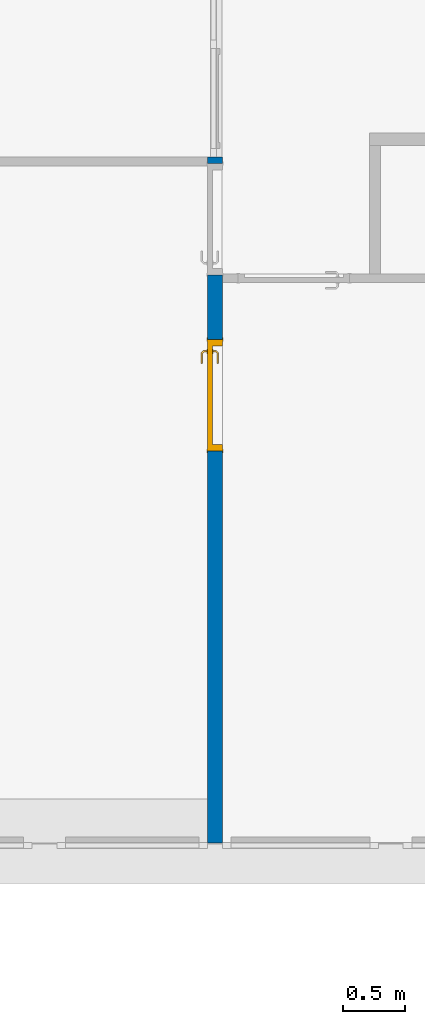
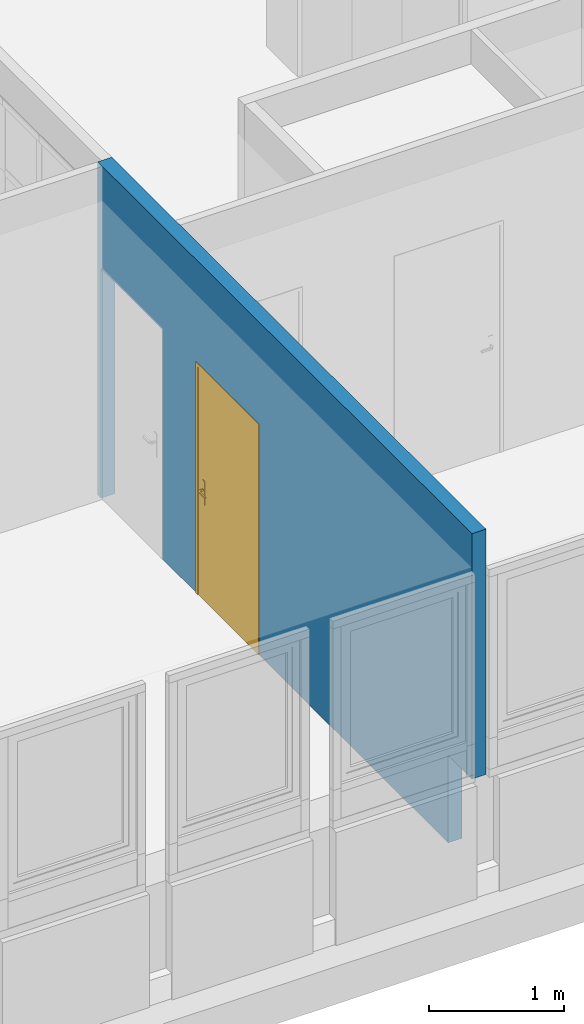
# One storey, part 54 of 97: 1 door, 1 wall, 2 openings.
"""IFC4 building model written with IfcOpenShell, lengths in metres."""

import ifcopenshell
import ifcopenshell.guid

model = None  # the IFC model being written
_history = None  # IfcOwnerHistory: only IFC2X3 demands one
_inside = {}  # id of a spatial element -> (the spatial element, [elements in it])
_under = {}  # id of a project, library or spatial element -> (it, [spatial elements below it])
_declared = {}  # id of a project -> (the project, [libraries it declares])
_typed = {}  # id of a type object -> (the type object, [elements of that type])
_made_of = {}  # id of a material, layer set ... -> (it, [elements and type objects made of it])


def new_model(schema):
    """Start an empty IFC model of exactly this schema.

    Asked for "IFC4X3", IfcOpenShell would pick the latest addendum, in which some entities
    have other attributes; the version numbers below select the first issue.
    IFC2X3 requires an IfcOwnerHistory on every rooted entity: one is made here for all.
    """
    global model, _history
    if schema == "IFC4X3":
        model = ifcopenshell.file(schema_version=(4, 3, 0, 0))
    else:
        model = ifcopenshell.file(schema=schema)
    _inside.clear()
    _under.clear()
    _declared.clear()
    _typed.clear()
    _made_of.clear()
    _history = None
    if model.schema == "IFC2X3":
        org = make("IfcOrganization", Name="unknown")
        user = make(
            "IfcPersonAndOrganization",
            ThePerson=make("IfcPerson", FamilyName="unknown"),
            TheOrganization=org,
        )
        app = make(
            "IfcApplication",
            ApplicationDeveloper=org,
            Version="unknown",
            ApplicationFullName="unknown",
            ApplicationIdentifier="unknown",
        )
        _history = make(
            "IfcOwnerHistory",
            OwningUser=user,
            OwningApplication=app,
            ChangeAction="ADDED",
            CreationDate=0,
        )
    return model


def make(cls, **values):
    """One entity of the class cls with the attributes given. An attribute that is None is left unset."""
    return model.create_entity(
        cls, **{name: value for name, value in values.items() if value is not None}
    )


def entity(cls, *values):
    """Any entity or typed value of the class cls, its attributes in the order of the schema. None: left unset."""
    e = model.create_entity(cls)
    for i, value in enumerate(values):
        if value is not None:
            e[i] = value
    return e


def rooted(cls, **values):
    """An entity with a GlobalId (a new one), such as an element, a storey or a relation."""
    return make(cls, GlobalId=ifcopenshell.guid.new(), OwnerHistory=_history, **values)


def si_unit(unit_type, name, prefix=None):
    """IfcSIUnit, for example si_unit("LENGTHUNIT", "METRE", prefix="MILLI")."""
    return make("IfcSIUnit", UnitType=unit_type, Prefix=prefix, Name=name)


def converted_unit(unit_type, name, factor, base, dimensions=None, offset=None):
    """IfcConversionBasedUnit, such as the inch: factor (a typed value) times the base unit."""
    return make(
        "IfcConversionBasedUnit"
        if offset is None
        else "IfcConversionBasedUnitWithOffset",
        ConversionOffset=offset,
        Dimensions=None
        if dimensions is None
        else entity("IfcDimensionalExponents", *dimensions),
        UnitType=unit_type,
        Name=name,
        ConversionFactor=make(
            "IfcMeasureWithUnit", ValueComponent=factor, UnitComponent=base
        ),
    )


def derived_unit(unit_type, elements):
    """IfcDerivedUnit: a product of units, each with its exponent."""
    return make(
        "IfcDerivedUnit",
        Elements=[
            make("IfcDerivedUnitElement", Unit=unit, Exponent=power)
            for unit, power in elements
        ],
        UnitType=unit_type,
    )


def assignment(units):
    """IfcUnitAssignment: the units of a project."""
    return None if units is None else make("IfcUnitAssignment", Units=units)


def point(xyz):
    """IfcCartesianPoint."""
    return None if xyz is None else make("IfcCartesianPoint", Coordinates=xyz)


def direction(xyz):
    """IfcDirection."""
    return None if xyz is None else make("IfcDirection", DirectionRatios=xyz)


def frame(location, z_axis=None, x_axis=None):
    """IfcAxis2Placement3D, a coordinate frame: its origin and axes. An axis left out is left unset."""
    return make(
        "IfcAxis2Placement3D",
        Location=point(location),
        Axis=direction(z_axis),
        RefDirection=direction(x_axis),
    )


def origin():
    """The frame at (0, 0, 0) with its axes left unset."""
    return frame((0.0, 0.0, 0.0))


def place(relative_to, where):
    """IfcLocalPlacement: puts the frame where relative to a parent placement (None: the world)."""
    return make(
        "IfcLocalPlacement", PlacementRelTo=relative_to, RelativePlacement=where
    )


def context(
    kind, dimensions, precision=None, world=None, true_north=None, identifier=None
):
    """IfcGeometricRepresentationContext, for example the 3D "Model" context."""
    return make(
        "IfcGeometricRepresentationContext",
        ContextIdentifier=identifier,
        ContextType=kind,
        CoordinateSpaceDimension=dimensions,
        Precision=precision,
        WorldCoordinateSystem=world,
        TrueNorth=true_north,
    )


def subcontext(parent, identifier, kind, view, scale=None):
    """IfcGeometricRepresentationSubContext, for example "Body" below "Model"."""
    return make(
        "IfcGeometricRepresentationSubContext",
        ContextIdentifier=identifier,
        ContextType=kind,
        ParentContext=parent,
        TargetScale=scale,
        TargetView=view,
    )


def project(units=None, contexts=None):
    """IfcProject with its units and contexts."""
    return rooted(
        "IfcProject",
        Name="project",
        RepresentationContexts=contexts,
        UnitsInContext=assignment(units),
    )


def spatial(cls, under=None, at=None, **own):
    """A site, building, storey or space (cls), placed at a placement, below another one or the project."""
    s = rooted(cls, ObjectPlacement=at, **own)
    if under is not None:
        _under.setdefault(under.id(), (under, []))[1].append(s)
    return s


def point_list(points):
    """IfcCartesianPointList2D or 3D."""
    cls = (
        "IfcCartesianPointList2D" if len(points[0]) == 2 else "IfcCartesianPointList3D"
    )
    return make(cls, CoordList=points)


def indexed_curve(points, segments=None, self_intersect=None):
    """IfcIndexedPolyCurve: lines and arcs through numbered points (the first is 1)."""
    return make(
        "IfcIndexedPolyCurve",
        Points=point_list(points),
        Segments=segments,
        SelfIntersect=self_intersect,
    )


def outline(outer, holes=None, kind="AREA"):
    """IfcArbitraryClosedProfileDef: a profile drawn as a closed curve; with holes, ...WithVoids."""
    if holes is None:
        return make("IfcArbitraryClosedProfileDef", ProfileType=kind, OuterCurve=outer)
    return make(
        "IfcArbitraryProfileDefWithVoids",
        ProfileType=kind,
        OuterCurve=outer,
        InnerCurves=holes,
    )


def extrude(swept, where, along, depth):
    """IfcExtrudedAreaSolid: the profile swept, set in the frame where, extruded along a direction by depth."""
    return make(
        "IfcExtrudedAreaSolid",
        SweptArea=swept,
        Position=where,
        ExtrudedDirection=direction(along),
        Depth=depth,
    )


def polygons(points, faces, closed=None, point_numbers=None):
    """IfcPolygonalFaceSet: a face is its outer loop, then its inner loops; points numbered from 1."""
    made = []
    for loops in faces:
        if len(loops) == 1:
            made.append(make("IfcIndexedPolygonalFace", CoordIndex=loops[0]))
        else:
            made.append(
                make(
                    "IfcIndexedPolygonalFaceWithVoids",
                    CoordIndex=loops[0],
                    InnerCoordIndices=loops[1:],
                )
            )
    return make(
        "IfcPolygonalFaceSet",
        Coordinates=point_list(points),
        Closed=closed,
        Faces=made,
        PnIndex=point_numbers,
    )


def shape(context_of_items, identifier, shape_type, items):
    """IfcShapeRepresentation: the items that make up one representation, for example the "Body"."""
    return make(
        "IfcShapeRepresentation",
        ContextOfItems=context_of_items,
        RepresentationIdentifier=identifier,
        RepresentationType=shape_type,
        Items=items,
    )


def source(mapping_origin, context_of_items, identifier, shape_type, items):
    """IfcRepresentationMap: a shape defined once, which mapped items show again and again."""
    return make(
        "IfcRepresentationMap",
        MappingOrigin=mapping_origin,
        MappedRepresentation=shape(context_of_items, identifier, shape_type, items),
    )


def transform(
    local_origin,
    x_axis=None,
    y_axis=None,
    z_axis=None,
    scale=None,
    scale2=None,
    scale3=None,
    uniform=True,
):
    """IfcCartesianTransformationOperator3D, or its non-uniform kind. x_axis, y_axis, z_axis: its Axis1, 2, 3."""
    if uniform:
        return make(
            "IfcCartesianTransformationOperator3D",
            Axis1=direction(x_axis),
            Axis2=direction(y_axis),
            LocalOrigin=point(local_origin),
            Scale=scale,
            Axis3=direction(z_axis),
        )
    return make(
        "IfcCartesianTransformationOperator3DnonUniform",
        Axis1=direction(x_axis),
        Axis2=direction(y_axis),
        LocalOrigin=point(local_origin),
        Scale=scale,
        Axis3=direction(z_axis),
        Scale2=scale2,
        Scale3=scale3,
    )


def mapped(mapping_source, mapping_target):
    """IfcMappedItem: shows the shape of a source again, moved by a transform."""
    return make(
        "IfcMappedItem", MappingSource=mapping_source, MappingTarget=mapping_target
    )


def material(Name=None, Category=None):
    """IfcMaterial."""
    return make("IfcMaterial", Name=Name, Category=Category)


def material_list(materials):
    """IfcMaterialList."""
    return make("IfcMaterialList", Materials=materials)


def layer(
    of_material, thickness, ventilated=None, Name=None, Category=None, Priority=None
):
    """IfcMaterialLayer: one layer of a wall or slab, of a material (None: an air gap)."""
    return make(
        "IfcMaterialLayer",
        Material=of_material,
        LayerThickness=thickness,
        IsVentilated=ventilated,
        Name=Name,
        Category=Category,
        Priority=Priority,
    )


def layer_set(layers, Name=None):
    """IfcMaterialLayerSet."""
    return make("IfcMaterialLayerSet", MaterialLayers=layers, LayerSetName=Name)


def constituent(of_material, Name=None, Category=None, fraction=None):
    """IfcMaterialConstituent: one of the materials an element consists of."""
    return make(
        "IfcMaterialConstituent",
        Name=Name,
        Material=of_material,
        Fraction=fraction,
        Category=Category,
    )


def constituent_set(constituents=None, Name=None):
    """IfcMaterialConstituentSet."""
    return make(
        "IfcMaterialConstituentSet", Name=Name, MaterialConstituents=constituents
    )


def made_of(thing, what):
    """Note that an element or type object is made of a material, layer set ...; save() writes the relation."""
    if what is not None:
        _made_of.setdefault(what.id(), (what, []))[1].append(thing)
    return thing


def type_object(cls, material=None, **own):
    """A type object (cls), such as IfcWallType, which elements share."""
    return made_of(rooted(cls, **own), material)


def type_shapes(of_type, sources):
    """Give a type object the sources (RepresentationMaps) that its elements show as mapped items."""
    of_type.RepresentationMaps = sources


def element(
    cls,
    number,
    at=None,
    inside=None,
    cuts=None,
    type_object=None,
    material=None,
    context=None,
    identifier="Body",
    shape_type=None,
    held_by="IfcProductDefinitionShape",
    body=None,
    shapes=None,
    **own,
):
    """One element of the class cls, such as IfcWall. Its Tag is "e" and its number.

    at: its placement. inside: the storey or other place that contains it. cuts: it is an
    opening in that element (IfcRelVoidsElement). A single representation is given by context,
    identifier, shape_type and body (its items); several are given by shapes. held_by: the class
    of the entity that holds the representations. save() writes the other relations.
    """
    e = rooted(cls, Tag="e%d" % number, ObjectPlacement=at, **own)
    if body is not None:
        shapes = [shape(context, identifier, shape_type, body)]
    if shapes is not None:
        e.Representation = make(held_by, Representations=shapes)
    if inside is not None:
        _inside.setdefault(inside.id(), (inside, []))[1].append(e)
    if cuts is not None:
        rooted(
            "IfcRelVoidsElement", RelatingBuildingElement=cuts, RelatedOpeningElement=e
        )
    if type_object is not None:
        _typed.setdefault(type_object.id(), (type_object, []))[1].append(e)
    return made_of(e, material)


def fill(opening, filler):
    """IfcRelFillsElement: the door or window that sits in an opening."""
    return rooted(
        "IfcRelFillsElement",
        RelatingOpeningElement=opening,
        RelatedBuildingElement=filler,
    )


def aggregate(whole, parts):
    """IfcRelAggregates: a whole, such as a stair, and the parts it consists of."""
    return rooted("IfcRelAggregates", RelatingObject=whole, RelatedObjects=parts)


def save(model, path):
    """Write the relations noted so far, then the file.

    IfcRelAggregates (storeys below a building ...), IfcRelContainedInSpatialStructure (elements
    in a storey), IfcRelDefinesByType, IfcRelAssociatesMaterial and IfcRelDeclares: one each for
    every whole, place, type object, material and project.
    """
    for whole, parts in _under.values():
        aggregate(whole, parts)
    for where, things in _inside.values():
        rooted(
            "IfcRelContainedInSpatialStructure",
            RelatedElements=things,
            RelatingStructure=where,
        )
    for kind, things in _typed.values():
        rooted("IfcRelDefinesByType", RelatedObjects=things, RelatingType=kind)
    for what, things in _made_of.values():
        rooted("IfcRelAssociatesMaterial", RelatedObjects=things, RelatingMaterial=what)
    for by, libraries in _declared.values():
        rooted("IfcRelDeclares", RelatingContext=by, RelatedDefinitions=libraries)
    model.write(path)


model = new_model("IFC4")

# Units and contexts
model_context = context("Model", 3, precision=1e-05, world=origin(), true_north=direction((6.12303176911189e-17, 1.0)))
body_context = subcontext(model_context, "Body", "Model", "MODEL_VIEW")
ifc_project = project(units=[si_unit("LENGTHUNIT", "METRE"), si_unit("AREAUNIT", "SQUARE_METRE"), si_unit("VOLUMEUNIT", "CUBIC_METRE"), converted_unit("PLANEANGLEUNIT", "DEGREE", entity("IfcRatioMeasure", 0.0174532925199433), si_unit("PLANEANGLEUNIT", "RADIAN"), dimensions=[0, 0, 0, 0, 0, 0, 0]), si_unit("MASSUNIT", "GRAM", prefix="KILO"), derived_unit("MASSDENSITYUNIT", [(si_unit("MASSUNIT", "GRAM", prefix="KILO"), 1), (si_unit("LENGTHUNIT", "METRE"), -3)]), derived_unit("MOMENTOFINERTIAUNIT", [(si_unit("LENGTHUNIT", "METRE"), 4)]), si_unit("TIMEUNIT", "SECOND"), si_unit("FREQUENCYUNIT", "HERTZ"), si_unit("THERMODYNAMICTEMPERATUREUNIT", "DEGREE_CELSIUS"), derived_unit("THERMALTRANSMITTANCEUNIT", [(si_unit("MASSUNIT", "GRAM", prefix="KILO"), 1), (si_unit("THERMODYNAMICTEMPERATUREUNIT", "KELVIN"), -1), (si_unit("TIMEUNIT", "SECOND"), -3)]), derived_unit("VOLUMETRICFLOWRATEUNIT", [(si_unit("LENGTHUNIT", "METRE"), 3), (si_unit("TIMEUNIT", "SECOND"), -1)]), si_unit("ELECTRICCURRENTUNIT", "AMPERE"), si_unit("ELECTRICVOLTAGEUNIT", "VOLT"), si_unit("POWERUNIT", "WATT"), si_unit("FORCEUNIT", "NEWTON", prefix="KILO"), si_unit("ILLUMINANCEUNIT", "LUX"), si_unit("LUMINOUSFLUXUNIT", "LUMEN"), si_unit("LUMINOUSINTENSITYUNIT", "CANDELA"), derived_unit("USERDEFINED", [(si_unit("MASSUNIT", "GRAM", prefix="KILO"), -1), (si_unit("LENGTHUNIT", "METRE"), -2), (si_unit("TIMEUNIT", "SECOND"), 3), (si_unit("LUMINOUSFLUXUNIT", "LUMEN"), 1)]), derived_unit("LINEARVELOCITYUNIT", [(si_unit("LENGTHUNIT", "METRE"), 1), (si_unit("TIMEUNIT", "SECOND"), -1)]), si_unit("PRESSUREUNIT", "PASCAL"), derived_unit("USERDEFINED", [(si_unit("LENGTHUNIT", "METRE"), -2), (si_unit("MASSUNIT", "GRAM", prefix="KILO"), 1), (si_unit("TIMEUNIT", "SECOND"), -2)]), derived_unit("LINEARFORCEUNIT", [(si_unit("MASSUNIT", "GRAM", prefix="KILO"), 1), (si_unit("LENGTHUNIT", "METRE"), 1), (si_unit("TIMEUNIT", "SECOND"), -2), (si_unit("LENGTHUNIT", "METRE"), -1)]), derived_unit("PLANARFORCEUNIT", [(si_unit("MASSUNIT", "GRAM", prefix="KILO"), 1), (si_unit("LENGTHUNIT", "METRE"), 1), (si_unit("TIMEUNIT", "SECOND"), -2), (si_unit("LENGTHUNIT", "METRE"), -2)])], contexts=[model_context])

# Site, building, storey
site_placement = place(None, origin())
site = spatial("IfcSite", under=ifc_project, at=site_placement, Name="Default", CompositionType="ELEMENT")
building_placement = place(site_placement, origin())
building = spatial("IfcBuilding", under=site, at=building_placement, Name="HOTEL CONSULAIRE BOULOGNE SUR MER", CompositionType="ELEMENT")
storey_placement = place(building_placement, frame((0.0, 0.0, 3.62152697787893)))
storey = spatial("IfcBuildingStorey", under=building, at=storey_placement, Name="Niveau 1", CompositionType="ELEMENT", Elevation=3.62152697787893)

# Wall, openings, door
ifc_material_1 = material(Name="Mur par défaut", Category="Divers")
ifc_layer = layer(ifc_material_1, 0.12, Name="Mur par défaut", Category="Divers")
ifc_layer_set = layer_set([ifc_layer], Name="Mur de base:Générique - Int.120")
wall_type = type_object("IfcWallType", Name="Mur de base:Générique - Int.120", PredefinedType="NOTDEFINED", material=ifc_layer_set)
wall_placement = place(storey_placement, frame((-9.66440198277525, -29.5540671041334, 0.0), z_axis=(0.0, 0.0, 1.0), x_axis=(0.0, 1.0, 0.0)))
wall = element("IfcWall", 1, at=wall_placement, inside=storey, type_object=wall_type, material=ifc_layer_set, Name="Mur de base:Générique - Int.120", ObjectType="Mur de base:Générique - Int.120", PredefinedType="NOTDEFINED", context=body_context, shape_type="Tessellation", body=[
    polygons([(5.54480749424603, -0.0599999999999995, 5.41433564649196e-16), (5.49280749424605, -0.0599999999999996, 5.41433564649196e-16), (5.49280749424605, 0.0599999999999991, 5.41433564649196e-16), (5.54480749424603, 0.0599999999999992, 5.41433564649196e-16), (4.59280749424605, -0.0599999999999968, 5.41433564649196e-16), (4.53041964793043, -0.0599999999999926, 5.41433564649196e-16), (4.06941964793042, -0.0599999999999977, 5.41433564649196e-16), (4.06941964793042, 0.060000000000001, 5.41433564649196e-16), (4.59280749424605, 0.0600000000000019, 5.41433564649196e-16), (5.54480749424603, -0.0599999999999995, 3.0102145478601), (4.60041964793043, -0.06, 3.0102145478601), (4.53041964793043, -0.0599999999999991, 3.0102145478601), (0.0, -0.0599999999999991, 3.0102145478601), (0.0, -0.0599999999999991, 0.791612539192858), (0.35396238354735, -0.0599999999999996, 0.791612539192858), (0.35396238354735, -0.0599999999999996, 5.41433564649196e-16), (3.16941964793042, -0.0599999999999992, 5.41433564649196e-16), (3.16941964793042, -0.0599999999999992, 2.075), (4.06941964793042, -0.0599999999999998, 2.075), (4.59280749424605, -0.06, 2.075), (5.49280749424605, -0.0599999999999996, 2.075), (0.0, 0.0600000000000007, 3.0102145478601), (5.47480749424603, 0.0600000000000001, 3.0102145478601), (5.54480749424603, 0.0600000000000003, 3.0102145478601), (5.49280749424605, 0.0600000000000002, 2.075), (4.59280749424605, 0.0599999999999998, 2.075), (4.06941964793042, 0.06, 2.075), (3.16941964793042, 0.0600000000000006, 2.075), (3.16941964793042, 0.0600000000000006, 5.41433564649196e-16), (0.35396238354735, 0.0600000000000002, 5.41433564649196e-16), (0.35396238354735, 0.0600000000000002, 0.791612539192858), (0.0, 0.0600000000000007, 0.791612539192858), (5.54480749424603, 0.0302226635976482, 3.0102145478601), (5.54480749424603, -0.0597773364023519, 3.0102145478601)], [[[1, 2, 3, 4]], [[6, 7, 8, 9, 5]], [[19, 18, 28, 27]], [[26, 25, 21, 20]], [[15, 14, 32, 31]], [[29, 17, 16, 30]], [[5, 20, 21, 2, 1, 10, 11, 12, 13, 14, 15, 16, 17, 18, 19, 7, 6]], [[24, 4, 3, 25, 26, 9, 8, 27, 28, 29, 30, 31, 32, 22, 23]], [[18, 17, 29, 28]], [[9, 26, 20, 5]], [[10, 1, 4, 24, 33, 34]], [[7, 19, 27, 8]], [[25, 3, 2, 21]], [[14, 13, 22, 32]], [[16, 15, 31, 30]], [[12, 11, 10, 34, 33, 24, 23, 22, 13]]], closed=True),
])
opening_1_placement = place(wall_placement, frame((3.16941964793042, -0.0599999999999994, 0.0)))
opening_1 = element("IfcOpeningElement", 2, at=opening_1_placement, cuts=wall, Name="Int. Simple:PP (0.83m x 2.04m):1", ObjectType="Opening", PredefinedType="OPENING", context=body_context, shape_type="SweptSolid", body=[
    extrude(outline(indexed_curve([(0.0, 1.08286712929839e-15), (2.075, 1.08286712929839e-15), (2.075, 0.9), (0.0, 0.9), (0.0, 1.08286712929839e-15)], self_intersect=False)), frame((0.0, 0.0, 0.0), z_axis=(0.0, 1.0, 0.0), x_axis=(0.0, 0.0, 1.0)), (0.0, 0.0, 1.0), 0.12),
])
opening_2_placement = place(wall_placement, frame((4.59280749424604, -0.0599999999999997, 0.0)))
element("IfcOpeningElement", 3, at=opening_2_placement, cuts=wall, Name="Int. Simple:PP (0.83m x 2.04m):1", ObjectType="Opening", PredefinedType="OPENING", context=body_context, shape_type="SweptSolid", body=[
    extrude(outline(indexed_curve([(0.0, 0.9), (0.0, -1.10599456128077e-30), (2.075, -1.10599456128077e-30), (2.075, 0.9), (0.0, 0.9)], self_intersect=False)), frame((0.0, 0.0, 0.0), z_axis=(0.0, 1.0, 0.0), x_axis=(0.0, 0.0, 1.0)), (0.0, 0.0, 1.0), 0.12),
])
ifc_material_2 = material(Name="Finition Peinture - Blanc satiné", Category="Peinture")
ifc_constituent_1 = constituent(ifc_material_2, Name="Finition Peinture - Blanc satiné", Category="Matériaux")
ifc_material_3 = material(Name="Bois - Panneau de porte", Category="Bois")
ifc_constituent_2 = constituent(ifc_material_3, Name="Bois - Panneau de porte", Category="Matériaux")
ifc_material_4 = material(Name="Bois - Cadre de porte", Category="Bois")
ifc_constituent_3 = constituent(ifc_material_4, Name="Bois - Cadre de porte", Category="Matériaux")
ifc_constituent_set = constituent_set(constituents=[ifc_constituent_1, ifc_constituent_2, ifc_constituent_3], Name="MaterialConstituentSet")
ifc_material_list = material_list([ifc_material_4, ifc_material_4, ifc_material_3, ifc_material_2])
door_type = type_object("IfcDoorType", Name="Int. Simple:PP (0.83m x 2.04m)", OperationType="NOTDEFINED", PredefinedType="DOOR", material=ifc_material_list)
shared_shape = source(origin(), body_context, "Body", "Tessellation", [
    polygons([(0.0750000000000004, -0.00500000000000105, 0.870000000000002), (0.0846472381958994, -0.00500000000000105, 0.866003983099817), (0.0950000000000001, -0.00500000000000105, 0.86464101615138), (0.105352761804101, -0.00500000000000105, 0.866003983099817), (0.115, -0.00500000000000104, 0.870000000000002), (0.114999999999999, -0.00500000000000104, 1.08), (0.1053527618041, -0.00500000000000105, 1.08399601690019), (0.094999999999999, -0.00500000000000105, 1.08535898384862), (0.0846472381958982, -0.00500000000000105, 1.08399601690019), (0.0749999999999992, -0.00500000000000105, 1.08), (0.0749999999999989, -1.05748743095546e-15, 0.870000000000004), (0.0749999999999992, -1.05748743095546e-15, 1.08), (0.0846472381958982, -1.05748743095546e-15, 1.08399601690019), (0.094999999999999, -1.04902753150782e-15, 1.08535898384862), (0.1053527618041, -1.04902753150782e-15, 1.08399601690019), (0.114999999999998, -1.04056763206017e-15, 1.08), (0.115, -1.04056763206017e-15, 0.870000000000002), (0.105352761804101, -1.04902753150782e-15, 0.866003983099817), (0.0950000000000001, -1.04902753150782e-15, 0.86464101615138), (0.0846472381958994, -1.05748743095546e-15, 0.866003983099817)], [[[4, 5, 6, 7, 8, 9, 10, 1, 2, 3]], [[15, 16, 17, 18, 19, 20, 11, 12, 13, 14]], [[11, 20, 2, 1]], [[2, 20, 19, 3]], [[19, 18, 4, 3]], [[18, 17, 5, 4]], [[6, 5, 17, 16]], [[16, 15, 7, 6]], [[7, 15, 14, 8]], [[14, 13, 9, 8]], [[13, 12, 10, 9]], [[1, 10, 12, 11]]], closed=True),
    polygons([(0.114999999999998, 0.0399999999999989, 1.08), (0.105352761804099, 0.0399999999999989, 1.08399601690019), (0.0949999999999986, 0.0399999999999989, 1.08535898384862), (0.084647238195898, 0.0399999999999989, 1.08399601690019), (0.0749999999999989, 0.0399999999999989, 1.08), (0.0750000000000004, 0.0399999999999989, 0.870000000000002), (0.0846472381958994, 0.0399999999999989, 0.866003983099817), (0.0950000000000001, 0.0399999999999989, 0.86464101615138), (0.105352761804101, 0.0399999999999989, 0.866003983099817), (0.115, 0.0399999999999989, 0.870000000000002), (0.114999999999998, 0.0449999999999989, 1.08), (0.115, 0.0449999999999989, 0.870000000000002), (0.105352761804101, 0.0449999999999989, 0.866003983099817), (0.0950000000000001, 0.0449999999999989, 0.86464101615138), (0.0846472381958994, 0.0449999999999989, 0.866003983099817), (0.0749999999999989, 0.0449999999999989, 0.870000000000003), (0.0749999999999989, 0.0449999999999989, 1.08), (0.084647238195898, 0.0449999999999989, 1.08399601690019), (0.0949999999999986, 0.0449999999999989, 1.08535898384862), (0.105352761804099, 0.0449999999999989, 1.08399601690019)], [[[9, 10, 1, 2, 3, 4, 5, 6, 7, 8]], [[20, 11, 12, 13, 14, 15, 16, 17, 18, 19]], [[11, 20, 2, 1]], [[2, 20, 19, 3]], [[19, 18, 4, 3]], [[18, 17, 5, 4]], [[6, 5, 17, 16]], [[16, 15, 7, 6]], [[7, 15, 14, 8]], [[14, 13, 9, 8]], [[13, 12, 10, 9]], [[1, 10, 12, 11]]], closed=True),
    polygons([(0.0889999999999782, -0.00500000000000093, 1.007), (0.0929747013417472, -0.00500000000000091, 1.00778044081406), (0.0970252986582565, -0.00500000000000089, 1.00778044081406), (0.101000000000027, -0.00500000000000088, 1.00699999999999), (0.101000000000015, -0.00500000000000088, 0.993000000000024), (0.0970252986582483, -0.00500000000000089, 0.992219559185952), (0.0929747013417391, -0.00500000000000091, 0.99221955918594), (0.0889999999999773, -0.00500000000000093, 0.992999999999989), (0.0889999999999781, -0.0326509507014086, 1.007), (0.092974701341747, -0.0310045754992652, 1.00778044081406), (0.0970252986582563, -0.0293267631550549, 1.00778044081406), (0.101000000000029, -0.0276803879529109, 1.007), (0.101000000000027, -0.0276803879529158, 0.993000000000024), (0.0970252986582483, -0.0293267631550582, 0.992219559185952), (0.0929747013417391, -0.0310045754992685, 0.99221955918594), (0.0889999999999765, -0.0326509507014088, 0.992999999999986), (0.107377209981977, -0.0510281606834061, 1.007), (0.10902358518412, -0.0470534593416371, 1.00778044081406), (0.110701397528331, -0.0430028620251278, 1.00778044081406), (0.112347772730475, -0.0390281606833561, 1.007), (0.112347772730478, -0.0390281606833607, 0.993000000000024), (0.110701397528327, -0.0430028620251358, 0.992219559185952), (0.109023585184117, -0.0470534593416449, 0.99221955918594), (0.107377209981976, -0.0510281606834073, 0.992999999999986), (0.195018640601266, -0.0510281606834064, 1.00699999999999), (0.195018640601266, -0.051028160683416, 0.992999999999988), (0.195018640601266, -0.0470534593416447, 0.99221955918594), (0.195018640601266, -0.0430028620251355, 0.992219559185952), (0.195018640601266, -0.0390281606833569, 0.993000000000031), (0.195018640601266, -0.0390281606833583, 1.007), (0.195018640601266, -0.0430028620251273, 1.00778044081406), (0.195018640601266, -0.0470534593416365, 1.00778044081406), (0.147307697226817, -0.0510281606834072, 1.007), (0.152860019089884, -0.045028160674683, 1.0078786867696), (0.15368320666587, -0.039028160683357, 1.007), (0.147307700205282, -0.0510281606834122, 0.992999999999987), (0.152860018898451, -0.0450281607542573, 0.992121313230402), (0.153683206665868, -0.0390281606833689, 0.993000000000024)], [[[2, 3, 4, 5, 6, 7, 8, 1]], [[21, 20, 35, 30, 29, 38]], [[9, 10, 2, 1]], [[10, 18, 19, 11, 3, 2]], [[11, 12, 4, 3]], [[5, 4, 12, 13]], [[26, 27, 28, 29, 30, 31, 32, 25]], [[13, 14, 6, 5]], [[14, 22, 23, 15, 7, 6]], [[15, 16, 8, 7]], [[1, 8, 16, 9]], [[17, 18, 10, 9]], [[19, 20, 12, 11]], [[13, 12, 20, 21]], [[21, 22, 14, 13]], [[23, 24, 16, 15]], [[9, 16, 24, 17]], [[33, 32, 34]], [[25, 32, 33]], [[18, 17, 33]], [[34, 35, 19]], [[20, 19, 35]], [[35, 31, 30]], [[32, 31, 34]], [[31, 35, 34]], [[18, 33, 34]], [[18, 34, 19]], [[38, 28, 37]], [[36, 37, 27]], [[21, 38, 22]], [[38, 29, 28]], [[26, 36, 27]], [[24, 23, 36]], [[36, 23, 37]], [[23, 22, 37]], [[22, 38, 37]], [[27, 37, 28]], [[17, 24, 36, 26, 25, 33]]], closed=True),
    polygons([(0.10100000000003, 0.0449999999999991, 0.993000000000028), (0.101000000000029, 0.0449999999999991, 1.007), (0.0970252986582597, 0.0449999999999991, 1.00778044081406), (0.0929747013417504, 0.0449999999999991, 1.00778044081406), (0.0889999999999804, 0.0449999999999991, 1.007), (0.0889999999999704, 0.0449999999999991, 0.992999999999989), (0.0929747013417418, 0.0449999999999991, 0.99221955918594), (0.0970252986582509, 0.0449999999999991, 0.992219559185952), (0.10100000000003, 0.067485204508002, 0.993000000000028), (0.10100000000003, 0.0674852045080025, 1.007), (0.0970252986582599, 0.0691315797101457, 1.00778044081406), (0.0929747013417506, 0.070809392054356, 1.00778044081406), (0.0889999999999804, 0.0724557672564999, 1.007), (0.0889999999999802, 0.072455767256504, 0.992999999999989), (0.0929747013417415, 0.0708093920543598, 0.99221955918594), (0.0970252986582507, 0.0691315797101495, 0.992219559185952), (0.112485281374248, 0.0789704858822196, 0.993000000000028), (0.112485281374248, 0.0789704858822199, 1.007), (0.110838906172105, 0.0829451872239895, 1.00778044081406), (0.109161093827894, 0.0869957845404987, 1.00778044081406), (0.107514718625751, 0.090970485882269, 1.007), (0.107514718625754, 0.090970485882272, 0.992999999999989), (0.109161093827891, 0.0869957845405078, 0.99221955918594), (0.110838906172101, 0.0829451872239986, 0.992219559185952), (0.195045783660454, 0.0789704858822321, 0.993000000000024), (0.195045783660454, 0.0829451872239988, 0.992219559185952), (0.195045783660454, 0.086995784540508, 0.99221955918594), (0.195045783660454, 0.0909704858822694, 0.992999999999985), (0.195045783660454, 0.0909704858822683, 1.007), (0.195045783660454, 0.0869957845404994, 1.00778044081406), (0.195045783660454, 0.0829451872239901, 1.00778044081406), (0.195045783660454, 0.0789704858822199, 1.007), (0.147445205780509, 0.0909704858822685, 1.007), (0.152942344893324, 0.0849704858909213, 1.0078786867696), (0.153765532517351, 0.0789704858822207, 1.007), (0.147445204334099, 0.0909704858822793, 0.992999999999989), (0.152942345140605, 0.0849704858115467, 0.992121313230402), (0.153765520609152, 0.0789704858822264, 0.993000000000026)], [[[4, 5, 6, 7, 8, 1, 2, 3]], [[18, 17, 38, 25, 32, 35]], [[2, 1, 9, 10]], [[25, 26, 27, 28, 29, 30, 31, 32]], [[10, 11, 3, 2]], [[11, 19, 20, 12, 4, 3]], [[12, 13, 5, 4]], [[6, 5, 13, 14]], [[14, 15, 7, 6]], [[15, 23, 24, 16, 8, 7]], [[16, 9, 1, 8]], [[10, 9, 17, 18]], [[18, 19, 11, 10]], [[20, 21, 13, 12]], [[14, 13, 21, 22]], [[22, 23, 15, 14]], [[24, 17, 9, 16]], [[35, 31, 34]], [[33, 34, 30]], [[18, 35, 19]], [[35, 32, 31]], [[29, 33, 30]], [[21, 20, 33]], [[33, 20, 34]], [[20, 19, 34]], [[19, 35, 34]], [[30, 34, 31]], [[21, 33, 29, 28, 36, 22]], [[36, 27, 37]], [[28, 27, 36]], [[23, 22, 36]], [[37, 38, 24]], [[17, 24, 38]], [[38, 26, 25]], [[27, 26, 37]], [[26, 38, 37]], [[23, 36, 37]], [[23, 37, 24]]], closed=True),
    polygons([(0.034999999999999, 0.04, 2.04), (0.865, 0.04, 2.04), (0.864999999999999, 0.04, 0.0), (0.034999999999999, 0.04, 0.0), (0.034999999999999, 4.22994972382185e-17, 2.04), (0.034999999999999, 4.22994972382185e-17, 0.0), (0.864999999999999, 4.22994972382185e-17, 0.0), (0.865, 4.22994972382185e-17, 2.04)], [[[4, 1, 2, 3]], [[7, 8, 5, 6]], [[2, 1, 5, 8]], [[3, 2, 8, 7]], [[4, 3, 7, 6]], [[1, 4, 6, 5]]], closed=True),
    polygons([(-1.54308565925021e-14, 0.0, 0.0), (-1.54308565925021e-14, 0.120000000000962, 0.0), (0.0499999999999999, 0.120000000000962, 0.0), (0.0499999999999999, 0.040000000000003, 0.0), (0.0349999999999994, 0.040000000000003, 0.0), (0.0349999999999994, 0.0, 0.0), (-1.53631773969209e-14, 0.0, 2.07500000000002), (-1.53631773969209e-14, 0.120000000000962, 2.07500000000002), (0.900000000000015, 0.120000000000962, 2.07500000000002), (0.900000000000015, 0.120000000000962, 9.23443718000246e-25), (0.85, 0.120000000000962, 6.02669015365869e-24), (0.85, 0.120000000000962, 2.025), (0.05, 0.120000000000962, 2.025), (0.05, 0.040000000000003, 2.025), (0.85, 0.040000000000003, 2.025), (0.85, 0.040000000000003, 1.99209609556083e-25), (0.865, 0.040000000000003, 1.51399294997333e-24), (0.865000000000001, 0.040000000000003, 2.04), (0.0349999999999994, 0.040000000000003, 2.04), (0.0349999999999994, 0.0, 2.04), (0.865, 0.0, 2.04), (0.865, 0.0, 3.40121094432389e-24), (0.900000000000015, 0.0, 1.81925185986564e-24), (0.900000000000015, 0.0, 2.07500000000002)], [[[5, 6, 1, 2, 3, 4]], [[11, 10, 23, 22, 17, 16]], [[14, 13, 12, 15]], [[20, 19, 18, 21]], [[2, 1, 7, 8]], [[15, 12, 11, 16]], [[21, 18, 17, 22]], [[3, 2, 8, 9, 10, 11, 12, 13]], [[4, 3, 13, 14]], [[6, 5, 19, 20]], [[9, 24, 23, 10]], [[16, 17, 18, 19, 5, 4, 14, 15]], [[22, 23, 24, 7, 1, 6, 20, 21]], [[8, 7, 24, 9]]], closed=True),
    polygons([(0.0149999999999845, 0.120000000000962, 1.35358391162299e-16), (-0.0150000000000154, 0.120000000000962, 1.35358391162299e-16), (-0.0150000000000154, 0.125000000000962, 1.35358391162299e-16), (0.0149999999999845, 0.125000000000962, 1.35358391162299e-16), (0.0149999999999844, 0.120000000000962, 2.06000000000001), (0.884999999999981, 0.120000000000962, 2.06000000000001), (0.88499999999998, 0.120000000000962, 5.09144897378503e-24), (0.91499999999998, 0.120000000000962, -5.44393448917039e-24), (0.91499999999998, 0.120000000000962, 2.09000000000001), (-0.0150000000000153, 0.120000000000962, 2.09000000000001), (-0.0150000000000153, 0.125000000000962, 2.09000000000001), (0.91499999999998, 0.125000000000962, 2.09000000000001), (0.91499999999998, 0.125000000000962, 5.03766794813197e-24), (0.88499999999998, 0.125000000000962, -1.89153776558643e-24), (0.88499999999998, 0.125000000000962, 2.06000000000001), (0.0149999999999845, 0.125000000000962, 2.06000000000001)], [[[1, 2, 3, 4]], [[14, 13, 8, 7]], [[5, 16, 15, 6]], [[7, 8, 9, 10, 2, 1, 5, 6]], [[3, 2, 10, 11]], [[6, 15, 14, 7]], [[4, 3, 11, 12, 13, 14, 15, 16]], [[1, 4, 16, 5]], [[12, 9, 8, 13]], [[11, 10, 9, 12]]], closed=True),
    polygons([(0.0149999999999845, -0.00499999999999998, 1.35358391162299e-16), (-0.0150000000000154, -0.00499999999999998, 1.35358391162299e-16), (-0.0150000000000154, 0.0, 1.35358391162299e-16), (0.0149999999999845, 0.0, 1.35358391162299e-16), (0.88499999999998, -0.00499999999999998, -1.35358391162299e-16), (0.88499999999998, 0.0, -1.35358391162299e-16), (0.91499999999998, 0.0, -1.35358391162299e-16), (0.91499999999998, -0.00499999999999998, -1.35358391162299e-16), (0.0149999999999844, -0.00499999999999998, 2.06000000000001), (0.884999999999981, -0.00499999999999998, 2.06000000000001), (0.91499999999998, -0.00499999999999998, 2.09000000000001), (-0.0150000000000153, -0.00499999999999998, 2.09000000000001), (-0.0150000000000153, 0.0, 2.09000000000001), (0.91499999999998, 0.0, 2.09000000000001), (0.88499999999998, 0.0, 2.06000000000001), (0.0149999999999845, 0.0, 2.06000000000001)], [[[1, 2, 3, 4]], [[6, 7, 8, 5]], [[9, 16, 15, 10]], [[5, 8, 11, 12, 2, 1, 9, 10]], [[3, 2, 12, 13]], [[10, 15, 6, 5]], [[4, 3, 13, 14, 7, 6, 15, 16]], [[1, 4, 16, 9]], [[14, 11, 8, 7]], [[13, 12, 11, 14]]], closed=True),
])
type_shapes(door_type, [shared_shape])
door_placement = place(opening_1_placement, frame((0.900000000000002, 0.11999999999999, 0.0), z_axis=(0.0, 0.0, 1.0), x_axis=(-1.0, 0.0, 0.0)))
door = element("IfcDoor", 4, at=door_placement, inside=storey, type_object=door_type, material=ifc_constituent_set, Name="Int. Simple:PP (0.83m x 2.04m)", ObjectType="Int. Simple:PP (0.83m x 2.04m)", OperationType="NOTDEFINED", OverallHeight=2.075, OverallWidth=0.899999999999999, PredefinedType="DOOR", context=body_context, shape_type="MappedRepresentation", body=[
    mapped(shared_shape, transform((0.0, 0.0, 0.0), scale=1.0)),
])
fill(opening_1, door)

save(model, "model.ifc")
